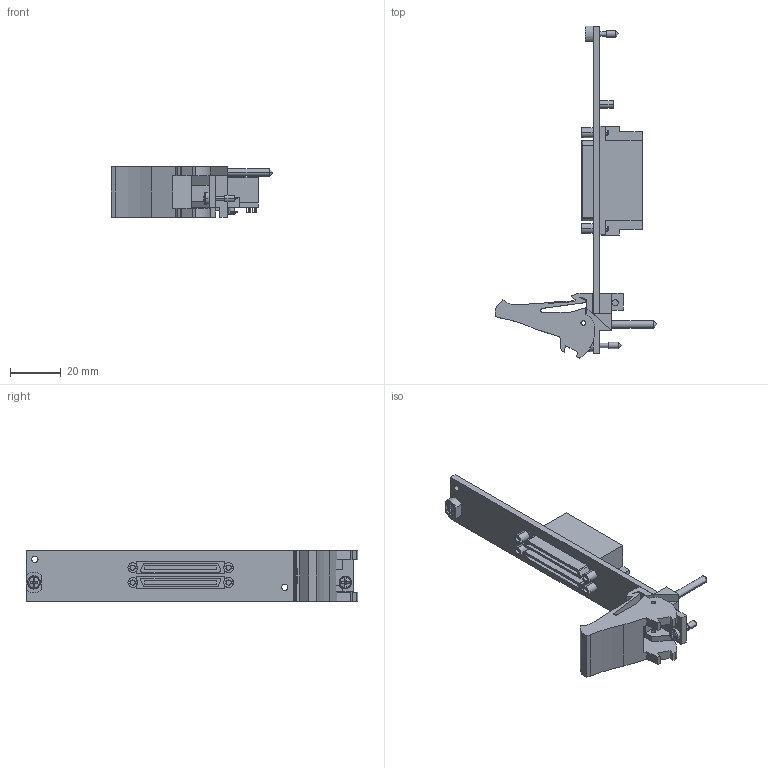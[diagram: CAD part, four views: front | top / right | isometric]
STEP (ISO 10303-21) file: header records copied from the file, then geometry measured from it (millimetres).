
FILE_DESCRIPTION((''),'2;1');
FILE_NAME('CU_PXIE-8431_16','2018-10-31T',('HUGyokoG'),(''),'CREO PARAMETRIC BY PTC INC, 2017480','CREO PARAMETRIC BY PTC INC, 2017480','');
FILE_SCHEMA(('AUTOMOTIVE_DESIGN { 1 0 10303 214 1 1 1 1 }'));
Length unit declared in the file: millimetre
Products named in the file (1): CU_PXIE-8431_16
Bounding box: 63.53 x 130.5 x 20.02 mm (x, y, z)
Volume: 21322.6 mm3; surface area: 15968.3 mm2
Topology: 25 solids, 25 shells, 512 faces, 1283 edges, 833 vertices
Faces by surface type: plane 336, cylinder 148, cone 18, sphere 6, torus 4
Entity records: 15480 total; most frequent: CARTESIAN_POINT 2826, DIRECTION 2638, ORIENTED_EDGE 2542, EDGE_CURVE 1271, AXIS2_PLACEMENT_3D 900, VECTOR 838, LINE 838, VERTEX_POINT 829
